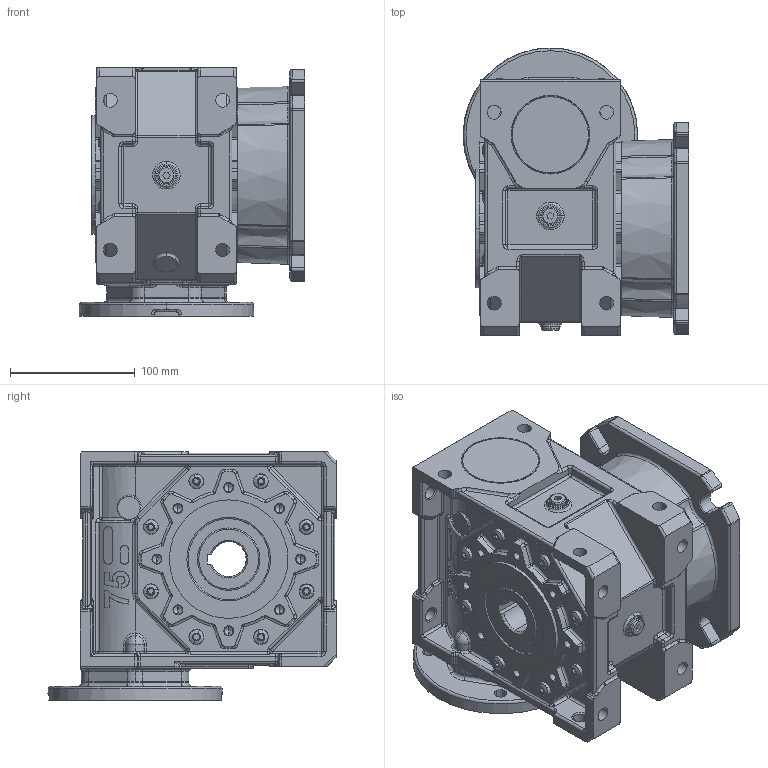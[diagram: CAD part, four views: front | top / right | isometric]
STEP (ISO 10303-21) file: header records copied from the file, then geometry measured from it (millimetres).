
FILE_DESCRIPTION (( 'STEP AP214' ), '1' );
FILE_NAME ('MKT75-FFL-71-115.STEP', '2006-05-10T04:54:58', ( '' ), ( '' ), 'SwSTEP 2.0', 'SolidWorks 2004146', '' );
FILE_SCHEMA (( 'AUTOMOTIVE_DESIGN' ));
Length unit declared in the file: millimetre
Products named in the file (6): D6912_Šroub DIN 6912 - M8x25; Skrin MKT75_MKT 75 AP71; pøíruba115 d72 MRT80a_Výchozí; D6912_Šroub DIN 6912 - M6x25; Pøíruba FF MKT 75_Výchozí; MKT75-FFL-71-115
Assembly tree (13 placements, depth 2):
  MKT75-FFL-71-115
    D6912_Šroub DIN 6912 - M6x25  x6
    D6912_Šroub DIN 6912 - M8x25  x4
    Skrin MKT75_MKT 75 AP71
    pøíruba115 d72 MRT80a_Výchozí
    Pøíruba FF MKT 75_Výchozí
Bounding box: 181 x 230.81 x 199 mm (x, y, z)
Volume: 3556471.7 mm3; surface area: 372865.4 mm2
Topology: 13 solids, 13 shells, 3071 faces, 7229 edges, 4084 vertices
Faces by surface type: cylinder 1092, torus 581, plane 555, bspline 326, cone 260, sphere 257
Entity records: 246261 total; most frequent: CARTESIAN_POINT 179460, DIRECTION 14087, ORIENTED_EDGE 12890, EDGE_CURVE 6445, AXIS2_PLACEMENT_3D 6015, VERTEX_POINT 3790, CIRCLE 3550, EDGE_LOOP 2947
